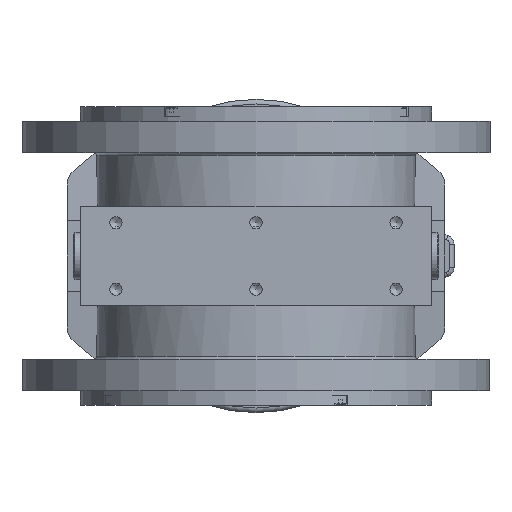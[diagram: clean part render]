
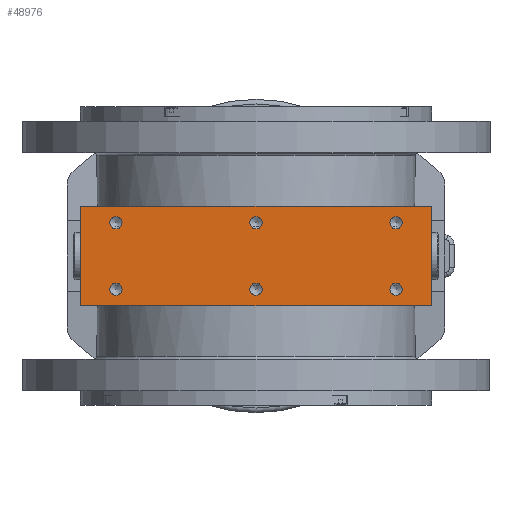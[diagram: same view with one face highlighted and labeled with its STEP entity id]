
A CAD part, front view. The second image highlights one B-rep face of the part: STEP entity #48976.
In plain terms, the highlighted planar face has unit normal (0, -1, 0).
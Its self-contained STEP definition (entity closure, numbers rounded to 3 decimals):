
#3394=FACE_BOUND('',#15372,.T.);
#3395=FACE_BOUND('',#15373,.T.);
#3396=FACE_BOUND('',#15374,.T.);
#3397=FACE_BOUND('',#15375,.T.);
#3398=FACE_BOUND('',#15376,.T.);
#3399=FACE_BOUND('',#15377,.T.);
#4175=LINE('',#77171,#7264);
#4235=LINE('',#77425,#7324);
#5415=LINE('',#85704,#8504);
#5416=LINE('',#85705,#8505);
#7264=VECTOR('',#59576,10.);
#7324=VECTOR('',#59780,10.);
#8504=VECTOR('',#62066,10.);
#8505=VECTOR('',#62067,10.);
#10426=PLANE('',#52738);
#12340=FACE_OUTER_BOUND('',#15371,.T.);
#15371=EDGE_LOOP('',(#39259,#39260,#39261,#39262));
#15372=EDGE_LOOP('',(#39263,#39264));
#15373=EDGE_LOOP('',(#39265,#39266));
#15374=EDGE_LOOP('',(#39267,#39268));
#15375=EDGE_LOOP('',(#39269,#39270));
#15376=EDGE_LOOP('',(#39271,#39272));
#15377=EDGE_LOOP('',(#39273,#39274));
#18052=CIRCLE('',#52231,3.324);
#18053=CIRCLE('',#52232,3.324);
#18056=CIRCLE('',#52237,3.324);
#18057=CIRCLE('',#52238,3.324);
#18060=CIRCLE('',#52243,3.324);
#18061=CIRCLE('',#52244,3.324);
#18064=CIRCLE('',#52249,3.324);
#18065=CIRCLE('',#52250,3.324);
#18068=CIRCLE('',#52255,3.324);
#18069=CIRCLE('',#52256,3.324);
#18072=CIRCLE('',#52261,3.324);
#18073=CIRCLE('',#52262,3.324);
#21185=VERTEX_POINT('',#77168);
#21186=VERTEX_POINT('',#77170);
#21307=VERTEX_POINT('',#77423);
#21308=VERTEX_POINT('',#77424);
#21363=VERTEX_POINT('',#77592);
#21364=VERTEX_POINT('',#77593);
#21368=VERTEX_POINT('',#77605);
#21369=VERTEX_POINT('',#77606);
#21373=VERTEX_POINT('',#77618);
#21374=VERTEX_POINT('',#77619);
#21378=VERTEX_POINT('',#77631);
#21379=VERTEX_POINT('',#77632);
#21383=VERTEX_POINT('',#77644);
#21384=VERTEX_POINT('',#77645);
#21388=VERTEX_POINT('',#77657);
#21389=VERTEX_POINT('',#77658);
#26656=EDGE_CURVE('',#21186,#21185,#4175,.T.);
#26781=EDGE_CURVE('',#21307,#21308,#4235,.T.);
#26861=EDGE_CURVE('',#21363,#21364,#18052,.T.);
#26862=EDGE_CURVE('',#21364,#21363,#18053,.T.);
#26867=EDGE_CURVE('',#21368,#21369,#18056,.T.);
#26868=EDGE_CURVE('',#21369,#21368,#18057,.T.);
#26873=EDGE_CURVE('',#21373,#21374,#18060,.T.);
#26874=EDGE_CURVE('',#21374,#21373,#18061,.T.);
#26879=EDGE_CURVE('',#21378,#21379,#18064,.T.);
#26880=EDGE_CURVE('',#21379,#21378,#18065,.T.);
#26885=EDGE_CURVE('',#21383,#21384,#18068,.T.);
#26886=EDGE_CURVE('',#21384,#21383,#18069,.T.);
#26891=EDGE_CURVE('',#21388,#21389,#18072,.T.);
#26892=EDGE_CURVE('',#21389,#21388,#18073,.T.);
#28615=EDGE_CURVE('',#21307,#21185,#5415,.T.);
#28616=EDGE_CURVE('',#21186,#21308,#5416,.T.);
#39259=ORIENTED_EDGE('',*,*,#26656,.T.);
#39260=ORIENTED_EDGE('',*,*,#28615,.F.);
#39261=ORIENTED_EDGE('',*,*,#26781,.T.);
#39262=ORIENTED_EDGE('',*,*,#28616,.F.);
#39263=ORIENTED_EDGE('',*,*,#26861,.T.);
#39264=ORIENTED_EDGE('',*,*,#26862,.T.);
#39265=ORIENTED_EDGE('',*,*,#26867,.T.);
#39266=ORIENTED_EDGE('',*,*,#26868,.T.);
#39267=ORIENTED_EDGE('',*,*,#26873,.T.);
#39268=ORIENTED_EDGE('',*,*,#26874,.T.);
#39269=ORIENTED_EDGE('',*,*,#26879,.T.);
#39270=ORIENTED_EDGE('',*,*,#26880,.T.);
#39271=ORIENTED_EDGE('',*,*,#26885,.T.);
#39272=ORIENTED_EDGE('',*,*,#26886,.T.);
#39273=ORIENTED_EDGE('',*,*,#26891,.T.);
#39274=ORIENTED_EDGE('',*,*,#26892,.T.);
#48976=ADVANCED_FACE('',(#12340,#3394,#3395,#3396,#3397,#3398,#3399),#10426,
 .T.);
#52231=AXIS2_PLACEMENT_3D('',#77594,#59926,#59927);
#52232=AXIS2_PLACEMENT_3D('',#77595,#59928,#59929);
#52237=AXIS2_PLACEMENT_3D('',#77607,#59940,#59941);
#52238=AXIS2_PLACEMENT_3D('',#77608,#59942,#59943);
#52243=AXIS2_PLACEMENT_3D('',#77620,#59954,#59955);
#52244=AXIS2_PLACEMENT_3D('',#77621,#59956,#59957);
#52249=AXIS2_PLACEMENT_3D('',#77633,#59968,#59969);
#52250=AXIS2_PLACEMENT_3D('',#77634,#59970,#59971);
#52255=AXIS2_PLACEMENT_3D('',#77646,#59982,#59983);
#52256=AXIS2_PLACEMENT_3D('',#77647,#59984,#59985);
#52261=AXIS2_PLACEMENT_3D('',#77659,#59996,#59997);
#52262=AXIS2_PLACEMENT_3D('',#77660,#59998,#59999);
#52738=AXIS2_PLACEMENT_3D('',#85703,#62064,#62065);
#59576=DIRECTION('',(0.,0.,-1.));
#59780=DIRECTION('',(0.,0.,1.));
#59926=DIRECTION('center_axis',(0.,1.,0.));
#59927=DIRECTION('ref_axis',(-1.,0.,0.));
#59928=DIRECTION('center_axis',(0.,1.,0.));
#59929=DIRECTION('ref_axis',(-1.,0.,0.));
#59940=DIRECTION('center_axis',(0.,1.,0.));
#59941=DIRECTION('ref_axis',(-1.,0.,0.));
#59942=DIRECTION('center_axis',(0.,1.,0.));
#59943=DIRECTION('ref_axis',(-1.,0.,0.));
#59954=DIRECTION('center_axis',(0.,1.,0.));
#59955=DIRECTION('ref_axis',(-1.,0.,0.));
#59956=DIRECTION('center_axis',(0.,1.,0.));
#59957=DIRECTION('ref_axis',(-1.,0.,0.));
#59968=DIRECTION('center_axis',(0.,1.,0.));
#59969=DIRECTION('ref_axis',(-1.,0.,0.));
#59970=DIRECTION('center_axis',(0.,1.,0.));
#59971=DIRECTION('ref_axis',(-1.,0.,0.));
#59982=DIRECTION('center_axis',(0.,1.,0.));
#59983=DIRECTION('ref_axis',(-1.,0.,0.));
#59984=DIRECTION('center_axis',(0.,1.,0.));
#59985=DIRECTION('ref_axis',(-1.,0.,0.));
#59996=DIRECTION('center_axis',(0.,1.,0.));
#59997=DIRECTION('ref_axis',(-1.,0.,0.));
#59998=DIRECTION('center_axis',(0.,1.,0.));
#59999=DIRECTION('ref_axis',(-1.,0.,0.));
#62064=DIRECTION('center_axis',(0.,-1.,0.));
#62065=DIRECTION('ref_axis',(0.,0.,
1.));
#62066=DIRECTION('',(-1.,0.,0.));
#62067=DIRECTION('',(1.,0.,0.));
#77168=CARTESIAN_POINT('',(-95.,-123.5,-27.));
#77170=CARTESIAN_POINT('',(-95.,-123.5,27.));
#77171=CARTESIAN_POINT('',(-95.,-123.5,0.));
#77423=CARTESIAN_POINT('',(95.,-123.5,-27.));
#77424=CARTESIAN_POINT('',(95.,-123.5,27.));
#77425=CARTESIAN_POINT('',(95.,-123.5,0.));
#77592=CARTESIAN_POINT('',(-3.324,-123.5,18.));
#77593=CARTESIAN_POINT('',(3.323,-123.5,18.));
#77594=CARTESIAN_POINT('Origin',(0.,-123.5,18.));
#77595=CARTESIAN_POINT('Origin',(0.,-123.5,18.));
#77605=CARTESIAN_POINT('',(-79.324,-123.5,-18.));
#77606=CARTESIAN_POINT('',(-72.677,-123.5,-18.));
#77607=CARTESIAN_POINT('Origin',(-76.,-123.5,-18.));
#77608=CARTESIAN_POINT('Origin',(-76.,-123.5,-18.));
#77618=CARTESIAN_POINT('',(72.677,-123.5,-18.));
#77619=CARTESIAN_POINT('',(79.324,-123.5,-18.));
#77620=CARTESIAN_POINT('Origin',(76.,-123.5,-18.));
#77621=CARTESIAN_POINT('Origin',(76.,-123.5,-18.));
#77631=CARTESIAN_POINT('',(-3.324,-123.5,-18.));
#77632=CARTESIAN_POINT('',(3.323,-123.5,-18.));
#77633=CARTESIAN_POINT('Origin',(0.,-123.5,-18.));
#77634=CARTESIAN_POINT('Origin',(0.,-123.5,-18.));
#77644=CARTESIAN_POINT('',(72.677,-123.5,18.));
#77645=CARTESIAN_POINT('',(79.324,-123.5,18.));
#77646=CARTESIAN_POINT('Origin',(76.,-123.5,18.));
#77647=CARTESIAN_POINT('Origin',(76.,-123.5,18.));
#77657=CARTESIAN_POINT('',(-79.324,-123.5,18.));
#77658=CARTESIAN_POINT('',(-72.677,-123.5,18.));
#77659=CARTESIAN_POINT('Origin',(-76.,-123.5,18.));
#77660=CARTESIAN_POINT('Origin',(-76.,-123.5,18.));
#85703=CARTESIAN_POINT('Origin',(47.5,-123.5,-13.5));
#85704=CARTESIAN_POINT('',(-95.,-123.5,-27.));
#85705=CARTESIAN_POINT('',(95.,-123.5,27.));
